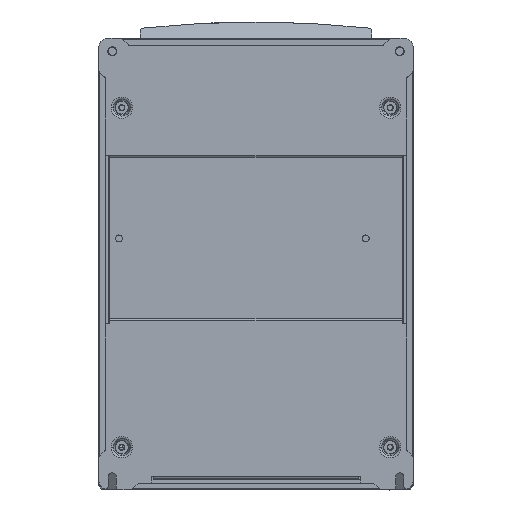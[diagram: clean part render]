
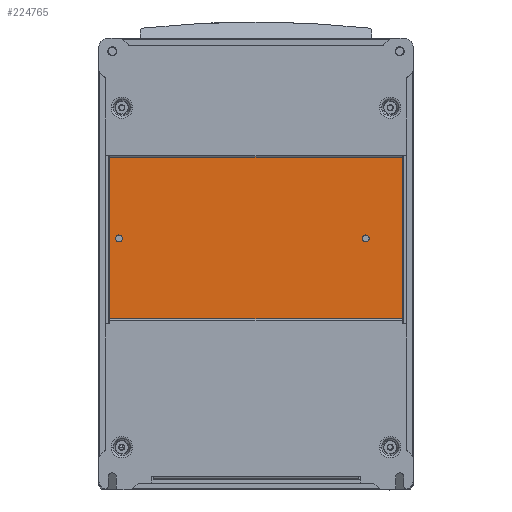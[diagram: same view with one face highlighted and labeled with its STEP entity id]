
A CAD part, front view. The second image highlights one B-rep face of the part: STEP entity #224765.
In plain terms, the highlighted planar face has unit normal (0, -1, 0) as drawn and (0, 0, 1) by its records, which use the part's own axes.
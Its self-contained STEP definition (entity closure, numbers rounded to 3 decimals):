
#222191=DIRECTION('',(1.,0.,0.));
#222192=VECTOR('',#222191,214.);
#222193=CARTESIAN_POINT('',(-107.,159.,-9.7));
#222194=LINE('',#222193,#222192);
#222203=CARTESIAN_POINT('',(100.1,100.2,-9.7));
#222204=DIRECTION('',(0.,0.,1.));
#222205=DIRECTION('',(-1.,0.,0.));
#222206=AXIS2_PLACEMENT_3D('',#222203,#222204,#222205);
#222208=CARTESIAN_POINT('',(100.1,100.2,-9.7));
#222209=DIRECTION('',(0.,0.,1.));
#222210=DIRECTION('',(1.,0.,0.));
#222211=AXIS2_PLACEMENT_3D('',#222208,#222209,#222210);
#222213=CARTESIAN_POINT('',(-80.1,100.2,-9.7));
#222214=DIRECTION('',(0.,0.,1.));
#222215=DIRECTION('',(-1.,0.,0.));
#222216=AXIS2_PLACEMENT_3D('',#222213,#222214,#222215);
#222218=CARTESIAN_POINT('',(-80.1,100.2,-9.7));
#222219=DIRECTION('',(0.,0.,1.));
#222220=DIRECTION('',(1.,0.,0.));
#222221=AXIS2_PLACEMENT_3D('',#222218,#222219,#222220);
#222223=DIRECTION('',(0.,1.,0.));
#222224=VECTOR('',#222223,118.);
#222225=CARTESIAN_POINT('',(107.,41.,-9.7));
#222226=LINE('',#222225,#222224);
#222227=DIRECTION('',(0.,1.,0.));
#222228=VECTOR('',#222227,118.);
#222229=CARTESIAN_POINT('',(-107.,41.,-9.7));
#222230=LINE('',#222229,#222228);
#223385=DIRECTION('',(1.,0.,0.));
#223386=VECTOR('',#223385,214.);
#223387=CARTESIAN_POINT('',(-107.,41.,-9.7));
#223388=LINE('',#223387,#223386);
#223676=CARTESIAN_POINT('',(107.,41.,-9.7));
#223678=VERTEX_POINT('',#223676);
#223680=CARTESIAN_POINT('',(-107.,41.,-9.7));
#223682=VERTEX_POINT('',#223680);
#223683=CARTESIAN_POINT('',(107.,159.,-9.7));
#223684=VERTEX_POINT('',#223683);
#223685=CARTESIAN_POINT('',(-107.,159.,-9.7));
#223686=VERTEX_POINT('',#223685);
#223747=CARTESIAN_POINT('',(97.6,100.2,-9.7));
#223748=CARTESIAN_POINT('',(102.6,100.2,-9.7));
#223749=VERTEX_POINT('',#223747);
#223750=VERTEX_POINT('',#223748);
#223751=CARTESIAN_POINT('',(-82.6,100.2,-9.7));
#223752=CARTESIAN_POINT('',(-77.6,100.2,-9.7));
#223753=VERTEX_POINT('',#223751);
#223754=VERTEX_POINT('',#223752);
#224739=CARTESIAN_POINT('',(110.,39.5,-9.7));
#224740=DIRECTION('',(0.,0.,1.));
#224741=DIRECTION('',(1.,0.,0.));
#224742=AXIS2_PLACEMENT_3D('',#224739,#224740,#224741);
#224743=PLANE('',#224742);
#224744=ORIENTED_EDGE('',*,*,#224730,.T.);
#224746=ORIENTED_EDGE('',*,*,#224745,.F.);
#224748=ORIENTED_EDGE('',*,*,#224747,.F.);
#224750=ORIENTED_EDGE('',*,*,#224749,.T.);
#224751=EDGE_LOOP('',(#224744,#224746,#224748,#224750));
#224752=FACE_OUTER_BOUND('',#224751,.F.);
#224754=ORIENTED_EDGE('',*,*,#224753,.T.);
#224756=ORIENTED_EDGE('',*,*,#224755,.T.);
#224757=EDGE_LOOP('',(#224754,#224756));
#224758=FACE_BOUND('',#224757,.F.);
#224760=ORIENTED_EDGE('',*,*,#224759,.T.);
#224762=ORIENTED_EDGE('',*,*,#224761,.T.);
#224763=EDGE_LOOP('',(#224760,#224762));
#224764=FACE_BOUND('',#224763,.F.);
#222207=CIRCLE('',#222206,2.5);
#222212=CIRCLE('',#222211,2.5);
#222217=CIRCLE('',#222216,2.5);
#222222=CIRCLE('',#222221,2.5);
#224730=EDGE_CURVE('',#223686,#223684,#222194,.T.);
#224745=EDGE_CURVE('',#223678,#223684,#222226,.T.);
#224747=EDGE_CURVE('',#223682,#223678,#223388,.T.);
#224749=EDGE_CURVE('',#223682,#223686,#222230,.T.);
#224753=EDGE_CURVE('',#223753,#223754,#222217,.T.);
#224755=EDGE_CURVE('',#223754,#223753,#222222,.T.);
#224759=EDGE_CURVE('',#223749,#223750,#222207,.T.);
#224761=EDGE_CURVE('',#223750,#223749,#222212,.T.);
#224765=ADVANCED_FACE('',(#224752,#224758,#224764),#224743,.T.);
